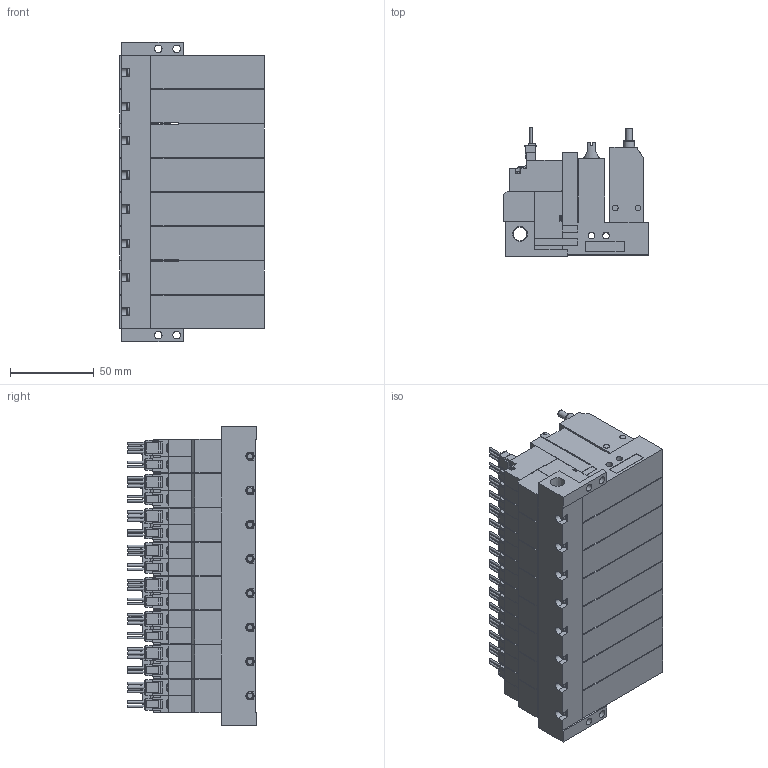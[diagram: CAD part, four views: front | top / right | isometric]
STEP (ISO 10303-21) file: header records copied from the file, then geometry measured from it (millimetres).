
FILE_DESCRIPTION(('STEP AP203'),'1');
FILE_NAME('ABS_ABPL5WLR808.stp','2025-02-25T05:10:14',(' '),(' '),'Spatial InterOp 3D',' ',' ');
FILE_SCHEMA(('CONFIG_CONTROL_DESIGN'));
Length unit declared in the file: millimetre
Products named in the file (5): BMC22M※※※※ABS_ABPL5WLR808; Solenoid valve W; Pressure sensor ABSL; Unit L; Base MR80R
Assembly tree (25 placements, depth 2):
  BMC22M※※※※ABS_ABPL5WLR808
    Solenoid valve W  x8
    Pressure sensor ABSL  x8
    Unit L  x8
    Base MR80R
Bounding box: 86.6 x 77.45 x 179.5 mm (x, y, z)
Volume: 719000.7 mm3; surface area: 199020.1 mm2
Topology: 25 solids, 25 shells, 2869 faces, 7683 edges, 5072 vertices
Faces by surface type: plane 2430, cylinder 349, cone 58, torus 32
Full cylindrical faces by diameter (mm): 1.4 x40, 2.5 x8, 3 x32, 3.5 x48, 3.6 x8, 4 x24, 4.134 x8, 4.5 x4, 5.2 x8, 6 x8, 6.5 x8, 6.6 x8, 8.279 x1
Entity records: 15090 total; most frequent: CARTESIAN_POINT 2929, DIRECTION 2420, ORIENTED_EDGE 2290, EDGE_CURVE 1145, LINE 890, VECTOR 890, VERTEX_POINT 814, AXIS2_PLACEMENT_3D 765
